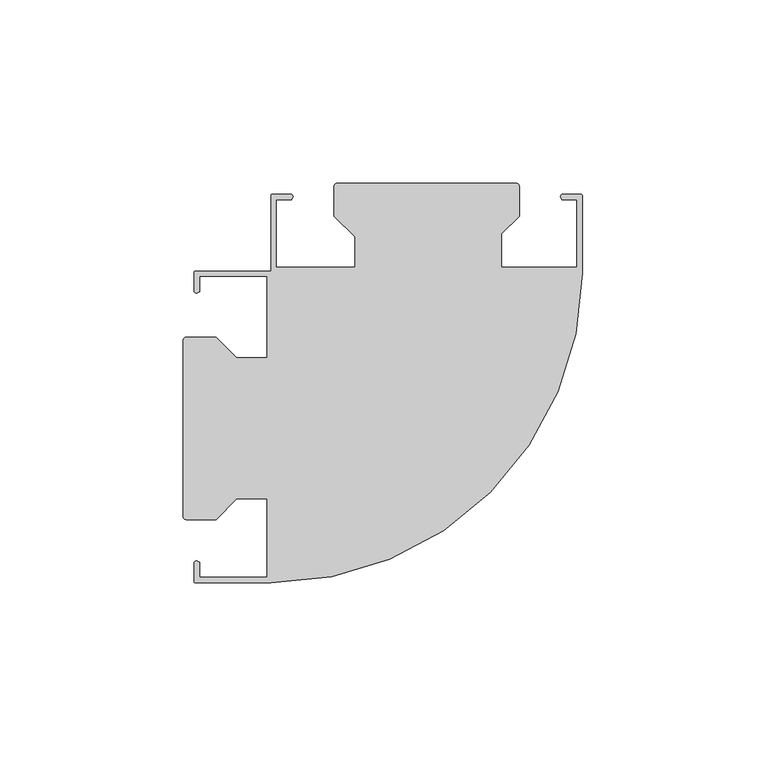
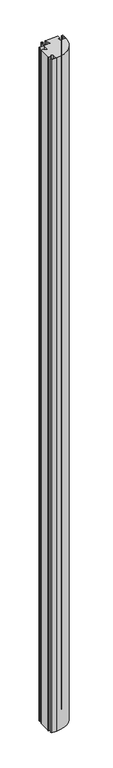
"""IFC4 building model written with IfcOpenShell, lengths in millimetres: member geometry, Прямоугольный импост : AMG-2-Профиль 85Х85 Угловой 2 стороны Верт Л."""

from ifc_helpers import new_model, si_unit, point, frame, frame_2d, origin, place, context, project, spatial, polyline, circle_curve, trimmed, segment, composite_curve, outline, extrude, source, transform, mapped, element, save


def member_c1f15f48(model_context):
    return source(origin(), model_context, "Body", "SweptSolid", [
        extrude(outline(composite_curve([segment(trimmed(circle_curve(frame_2d((-105.1976561, -36.8999999)), 0.8), [point((-105.9929685, -36.8135237))], [point((-105.1976561, -36.0999999))], False, "CARTESIAN"), True, "CONTINUOUS"), segment(polyline([(-105.1976561, -36.0999999), (-104.4976561, -36.4566677), (-104.4976561, -40.5999999), (-85.9976561, -40.5999999), (-85.9976561, -19.1999999), (-94.3476561, -19.1999999), (-99.9976561, -24.8499999), (-108.0929685, -24.8499999)]), True, "CONTINUOUS"), segment(trimmed(circle_curve(frame_2d((-108.0929685, -24.0499999)), 0.8), [point((-108.0929685, -24.8499999))], [point((-108.8929685, -24.0499999))], False, "CARTESIAN"), True, "CONTINUOUS"), segment(polyline([(-108.8929685, -24.0499999), (-108.8929685, 24.0499999)]), True, "CONTINUOUS"), segment(trimmed(circle_curve(frame_2d((-108.0929685, 24.0499999)), 0.8), [point((-108.8929685, 24.0499999))], [point((-108.0929685, 24.8499999))], False, "CARTESIAN"), True, "CONTINUOUS"), segment(polyline([(-108.0929685, 24.8499999), (-99.9976561, 24.8499999), (-94.3476561, 19.1999999), (-85.9976561, 19.1999999), (-85.9976561, 41.5000001), (-104.4976561, 41.5000001), (-104.4976561, 37.2379177), (-105.1976561, 36.8812499)]), True, "CONTINUOUS"), segment(trimmed(circle_curve(frame_2d((-105.1976561, 37.6812499)), 0.8), [point((-105.1976561, 36.8812499))], [point((-105.9929685, 37.5947737))], False, "CARTESIAN"), True, "CONTINUOUS"), segment(polyline([(-105.9929685, 37.5947737), (-105.9929685, 42.4000001)]), True, "CONTINUOUS"), segment(trimmed(circle_curve(frame_2d((-105.4929685, 42.4000001)), 0.5), [point((-105.9929685, 42.4000001))], [point((-105.4929685, 42.9000001))], False, "CARTESIAN"), True, "CONTINUOUS"), segment(polyline([(-105.4929685, 42.9000001), (-85.0, 42.9000001), (-85.0, 63.4000001)]), True, "CONTINUOUS"), segment(trimmed(circle_curve(frame_2d((-84.5, 63.4000001)), 0.5), [point((-85.0, 63.4000001))], [point((-84.5, 63.9000001))], False, "CARTESIAN"), True, "CONTINUOUS"), segment(polyline([(-84.5, 63.9000001), (-79.6947736, 63.9000001)]), True, "CONTINUOUS"), segment(trimmed(circle_curve(frame_2d((-79.7812498, 63.1046877)), 0.8), [point((-79.6947736, 63.9000001))], [point((-78.9812498, 63.1046877))], False, "CARTESIAN"), True, "CONTINUOUS"), segment(polyline([(-78.9812498, 63.1046877), (-79.3379176, 62.4046877), (-83.6, 62.4046877), (-83.6, 43.9046877), (-62.0976561, 43.9046877), (-62.0976561, 52.2500001), (-67.7180358, 57.8703798), (-67.7180358, 66.0000001)]), True, "CONTINUOUS"), segment(trimmed(circle_curve(frame_2d((-66.9180358, 66.0000001)), 0.8), [point((-67.7180358, 66.0000001))], [point((-66.9180358, 66.8000001))], False, "CARTESIAN"), True, "CONTINUOUS"), segment(polyline([(-66.9180358, 66.8000001), (-18.05, 66.8000001)]), True, "CONTINUOUS"), segment(trimmed(circle_curve(frame_2d((-18.05, 66.0000001)), 0.8), [point((-18.05, 66.8000001))], [point((-17.25, 66.0000001))], False, "CARTESIAN"), True, "CONTINUOUS"), segment(polyline([(-17.25, 66.0000001), (-17.25, 57.9046877), (-22.0976561, 53.0570316), (-22.0976561, 43.9046877), (-1.5, 43.9046877), (-1.5, 62.4046877), (-5.6433322, 62.4046877), (-6.0, 63.1046877)]), True, "CONTINUOUS"), segment(trimmed(circle_curve(frame_2d((-5.2, 63.1046877)), 0.8), [point((-6.0, 63.1046877))], [point((-5.2864762, 63.9000001))], False, "CARTESIAN"), True, "CONTINUOUS"), segment(polyline([(-5.2864762, 63.9000001), (-0.5, 63.9000001)]), True, "CONTINUOUS"), segment(trimmed(circle_curve(frame_2d((-0.5, 63.4000001)), 0.5), [point((-0.5, 63.9000001))], [point((0.0, 63.4000001))], False, "CARTESIAN"), True, "CONTINUOUS"), segment(polyline([(0.0, 63.4000001), (0.0, 42.2687645)]), True, "CONTINUOUS"), segment(trimmed(circle_curve(frame_2d((-84.9976561, 42.9000001)), 85.0), [point((0.0, 42.2687645))], [point((-84.9976561, -42.0999999))], False, "CARTESIAN"), True, "CONTINUOUS"), segment(polyline([(-84.9976561, -42.0999999), (-105.4929685, -42.0999999)]), True, "CONTINUOUS"), segment(trimmed(circle_curve(frame_2d((-105.4929685, -41.5999999)), 0.5), [point((-105.4929685, -42.0999999))], [point((-105.9929685, -41.5999999))], False, "CARTESIAN"), True, "CONTINUOUS"), segment(polyline([(-105.9929685, -41.5999999), (-105.9929685, -36.8135237)]), True, "CONTINUOUS")], self_intersect=False)), frame((0.0, 0.0, -2800.0), z_axis=(0.0, 0.0, 1.0), x_axis=(1.0, 0.0, 0.0)), (0.0, 0.0, 1.0), 2800.0),
    ])


if __name__ == "__main__":
    model = new_model("IFC4")
    model_context = context("Model", 3, world=origin())
    ifc_project = project(units=[si_unit("LENGTHUNIT", "METRE", prefix="MILLI")], contexts=[model_context])
    site = spatial("IfcSite", under=ifc_project)
    building = spatial("IfcBuilding", under=site)
    placement = place(None, origin())
    member_shape = member_c1f15f48(model_context)
    element("IfcMember", 1, ObjectType="Прямоугольный импост : AMG-2-Профиль 85Х85 Угловой 2 стороны Верт Л", at=placement, inside=building, context=model_context, shape_type="MappedRepresentation", body=[
        mapped(member_shape, transform((0.0, 0.0, 0.0), x_axis=(1.0, 0.0, 0.0), y_axis=(0.0, 1.0, 0.0), z_axis=(0.0, 0.0, 1.0))),
    ])
    save(model, "model.ifc")
